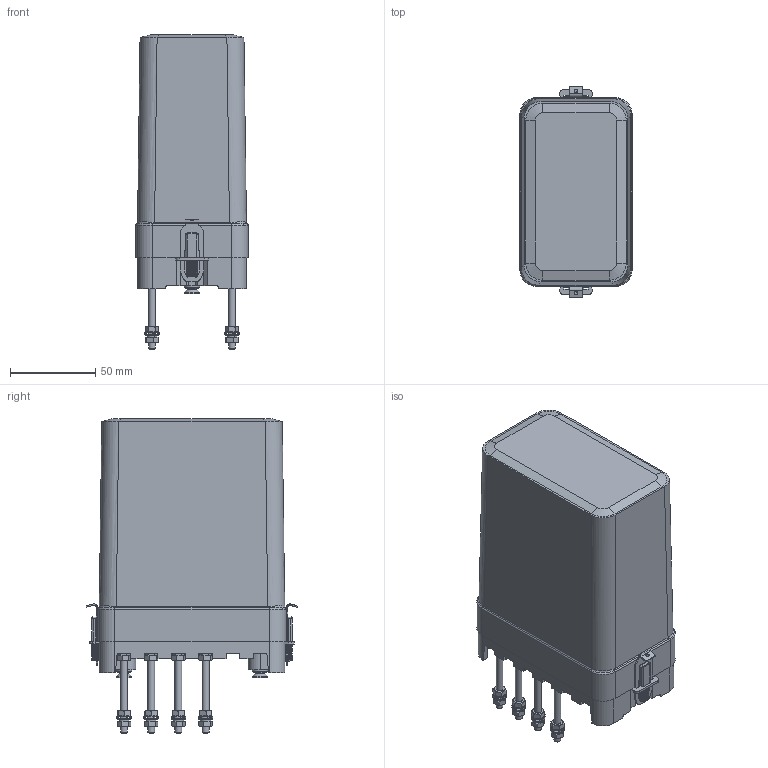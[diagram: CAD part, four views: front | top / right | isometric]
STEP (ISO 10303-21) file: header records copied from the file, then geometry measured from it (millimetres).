
FILE_DESCRIPTION(('STEP AP214'), '1');
FILE_NAME('型-51 玎漤邋 桦铋', '', ('UNSPECIFIED'), ('UNSPECIFIED'), 'ASCON STEP Converter 1.3', 'ASCON Math Kernel', '');
FILE_SCHEMA(('AUTOMOTIVE_DESIGN { 1 0 10303 214 3 1 1}'));
Length unit declared in the file: millimetre
Bounding box: 66 x 124.52 x 185 mm (x, y, z)
Volume: 166101.6 mm3; surface area: 131403 mm2
Topology: 4 solids, 10 shells, 1654 faces, 4495 edges, 2852 vertices
Faces by surface type: plane 1072, cylinder 392, torus 90, cone 56, bspline 42, sphere 2
Full cylindrical faces by diameter (mm): 2 x2, 3.242 x6, 3.5 x2, 4 x26, 4.2 x6, 4.3 x8, 5 x2, 5.3 x4, 5.5 x14, 8 x8, 9 x2, 9.3 x2
Entity records: 84184 total; most frequent: CARTESIAN_POINT 29956, ORIENTED_EDGE 8658, DIRECTION 8177, EDGE_CURVE 4335, VERTEX_POINT 2848, LINE 2739, VECTOR 2739, AXIS2_PLACEMENT_3D 2719
